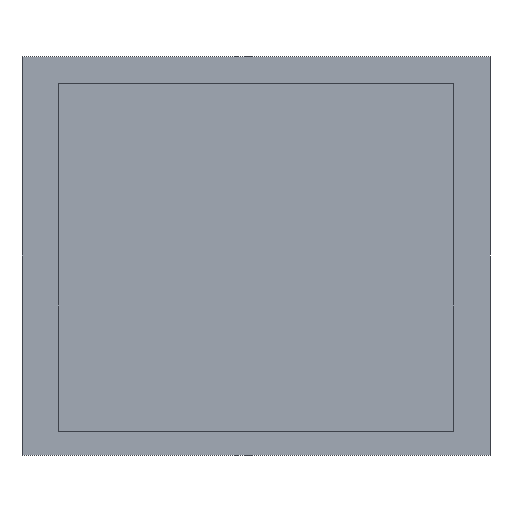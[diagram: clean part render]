
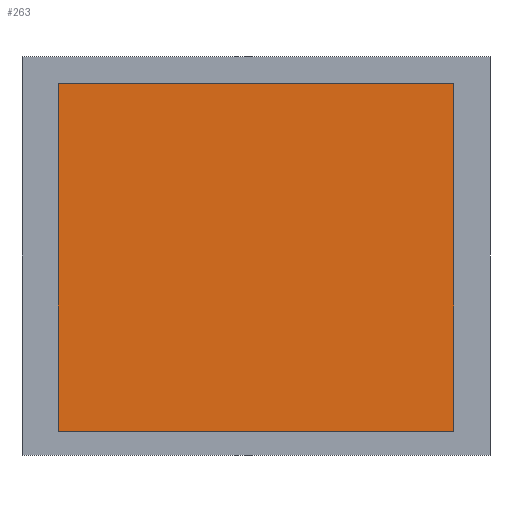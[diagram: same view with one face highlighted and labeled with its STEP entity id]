
A CAD part, front view. The second image highlights one B-rep face of the part: STEP entity #263.
In plain terms, the highlighted planar face has unit normal (0, -1, 0).
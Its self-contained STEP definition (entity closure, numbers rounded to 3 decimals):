
#47 = EDGE_CURVE('',#48,#50,#52,.T.);
#48 = VERTEX_POINT('',#49);
#49 = CARTESIAN_POINT('',(-41.,-5.3,-36.));
#50 = VERTEX_POINT('',#51);
#51 = CARTESIAN_POINT('',(-41.,-5.3,36.));
#52 = SURFACE_CURVE('',#53,(#57,#69),.PCURVE_S1.);
#53 = LINE('',#54,#55);
#54 = CARTESIAN_POINT('',(-41.,-5.3,-36.));
#55 = VECTOR('',#56,1.);
#56 = DIRECTION('',(0.,0.,1.));
#57 = PCURVE('',#58,#63);
#58 = PLANE('',#59);
#59 = AXIS2_PLACEMENT_3D('',#60,#61,#62);
#60 = CARTESIAN_POINT('',(-41.,-5.3,-36.));
#61 = DIRECTION('',(1.,0.,-0.));
#62 = DIRECTION('',(0.,0.,1.));
#63 = DEFINITIONAL_REPRESENTATION('',(#64),#68);
#64 = LINE('',#65,#66);
#65 = CARTESIAN_POINT('',(0.,0.));
#66 = VECTOR('',#67,1.);
#67 = DIRECTION('',(1.,0.));
#68 = ( GEOMETRIC_REPRESENTATION_CONTEXT(2) 
PARAMETRIC_REPRESENTATION_CONTEXT() REPRESENTATION_CONTEXT('2D SPACE',''
  ) );
#69 = PCURVE('',#70,#75);
#70 = PLANE('',#71);
#71 = AXIS2_PLACEMENT_3D('',#72,#73,#74);
#72 = CARTESIAN_POINT('',(-41.,-5.3,-36.));
#73 = DIRECTION('',(-0.,1.,0.));
#74 = DIRECTION('',(0.,0.,1.));
#75 = DEFINITIONAL_REPRESENTATION('',(#76),#80);
#76 = LINE('',#77,#78);
#77 = CARTESIAN_POINT('',(0.,0.));
#78 = VECTOR('',#79,1.);
#79 = DIRECTION('',(1.,0.));
#80 = ( GEOMETRIC_REPRESENTATION_CONTEXT(2) 
PARAMETRIC_REPRESENTATION_CONTEXT() REPRESENTATION_CONTEXT('2D SPACE',''
  ) );
#98 = PLANE('',#99);
#99 = AXIS2_PLACEMENT_3D('',#100,#101,#102);
#100 = CARTESIAN_POINT('',(-41.,-5.3,-36.));
#101 = DIRECTION('',(0.,0.,1.));
#102 = DIRECTION('',(1.,0.,-0.));
#152 = PLANE('',#153);
#153 = AXIS2_PLACEMENT_3D('',#154,#155,#156);
#154 = CARTESIAN_POINT('',(-41.,-5.3,36.));
#155 = DIRECTION('',(0.,0.,1.));
#156 = DIRECTION('',(1.,0.,-0.));
#167 = EDGE_CURVE('',#168,#170,#172,.T.);
#168 = VERTEX_POINT('',#169);
#169 = CARTESIAN_POINT('',(41.,-5.3,-36.));
#170 = VERTEX_POINT('',#171);
#171 = CARTESIAN_POINT('',(41.,-5.3,36.));
#172 = SURFACE_CURVE('',#173,(#177,#189),.PCURVE_S1.);
#173 = LINE('',#174,#175);
#174 = CARTESIAN_POINT('',(41.,-5.3,-36.));
#175 = VECTOR('',#176,1.);
#176 = DIRECTION('',(0.,0.,1.));
#177 = PCURVE('',#178,#183);
#178 = PLANE('',#179);
#179 = AXIS2_PLACEMENT_3D('',#180,#181,#182);
#180 = CARTESIAN_POINT('',(41.,-5.3,-36.));
#181 = DIRECTION('',(1.,0.,-0.));
#182 = DIRECTION('',(0.,0.,1.));
#183 = DEFINITIONAL_REPRESENTATION('',(#184),#188);
#184 = LINE('',#185,#186);
#185 = CARTESIAN_POINT('',(0.,0.));
#186 = VECTOR('',#187,1.);
#187 = DIRECTION('',(1.,0.));
#188 = ( GEOMETRIC_REPRESENTATION_CONTEXT(2) 
PARAMETRIC_REPRESENTATION_CONTEXT() REPRESENTATION_CONTEXT('2D SPACE',''
  ) );
#189 = PCURVE('',#70,#190);
#190 = DEFINITIONAL_REPRESENTATION('',(#191),#195);
#191 = LINE('',#192,#193);
#192 = CARTESIAN_POINT('',(0.,82.));
#193 = VECTOR('',#194,1.);
#194 = DIRECTION('',(1.,0.));
#195 = ( GEOMETRIC_REPRESENTATION_CONTEXT(2) 
PARAMETRIC_REPRESENTATION_CONTEXT() REPRESENTATION_CONTEXT('2D SPACE',''
  ) );
#263 = ADVANCED_FACE('',(#264),#70,.F.);
#264 = FACE_BOUND('',#265,.F.);
#265 = EDGE_LOOP('',(#266,#287,#288,#309));
#266 = ORIENTED_EDGE('',*,*,#267,.F.);
#267 = EDGE_CURVE('',#48,#168,#268,.T.);
#268 = SURFACE_CURVE('',#269,(#273,#280),.PCURVE_S1.);
#269 = LINE('',#270,#271);
#270 = CARTESIAN_POINT('',(-41.,-5.3,-36.));
#271 = VECTOR('',#272,1.);
#272 = DIRECTION('',(1.,0.,-0.));
#273 = PCURVE('',#70,#274);
#274 = DEFINITIONAL_REPRESENTATION('',(#275),#279);
#275 = LINE('',#276,#277);
#276 = CARTESIAN_POINT('',(0.,0.));
#277 = VECTOR('',#278,1.);
#278 = DIRECTION('',(0.,1.));
#279 = ( GEOMETRIC_REPRESENTATION_CONTEXT(2) 
PARAMETRIC_REPRESENTATION_CONTEXT() REPRESENTATION_CONTEXT('2D SPACE',''
  ) );
#280 = PCURVE('',#98,#281);
#281 = DEFINITIONAL_REPRESENTATION('',(#282),#286);
#282 = LINE('',#283,#284);
#283 = CARTESIAN_POINT('',(0.,0.));
#284 = VECTOR('',#285,1.);
#285 = DIRECTION('',(1.,0.));
#286 = ( GEOMETRIC_REPRESENTATION_CONTEXT(2) 
PARAMETRIC_REPRESENTATION_CONTEXT() REPRESENTATION_CONTEXT('2D SPACE',''
  ) );
#287 = ORIENTED_EDGE('',*,*,#47,.T.);
#288 = ORIENTED_EDGE('',*,*,#289,.T.);
#289 = EDGE_CURVE('',#50,#170,#290,.T.);
#290 = SURFACE_CURVE('',#291,(#295,#302),.PCURVE_S1.);
#291 = LINE('',#292,#293);
#292 = CARTESIAN_POINT('',(-41.,-5.3,36.));
#293 = VECTOR('',#294,1.);
#294 = DIRECTION('',(1.,0.,-0.));
#295 = PCURVE('',#70,#296);
#296 = DEFINITIONAL_REPRESENTATION('',(#297),#301);
#297 = LINE('',#298,#299);
#298 = CARTESIAN_POINT('',(72.,0.));
#299 = VECTOR('',#300,1.);
#300 = DIRECTION('',(0.,1.));
#301 = ( GEOMETRIC_REPRESENTATION_CONTEXT(2) 
PARAMETRIC_REPRESENTATION_CONTEXT() REPRESENTATION_CONTEXT('2D SPACE',''
  ) );
#302 = PCURVE('',#152,#303);
#303 = DEFINITIONAL_REPRESENTATION('',(#304),#308);
#304 = LINE('',#305,#306);
#305 = CARTESIAN_POINT('',(0.,0.));
#306 = VECTOR('',#307,1.);
#307 = DIRECTION('',(1.,0.));
#308 = ( GEOMETRIC_REPRESENTATION_CONTEXT(2) 
PARAMETRIC_REPRESENTATION_CONTEXT() REPRESENTATION_CONTEXT('2D SPACE',''
  ) );
#309 = ORIENTED_EDGE('',*,*,#167,.F.);
